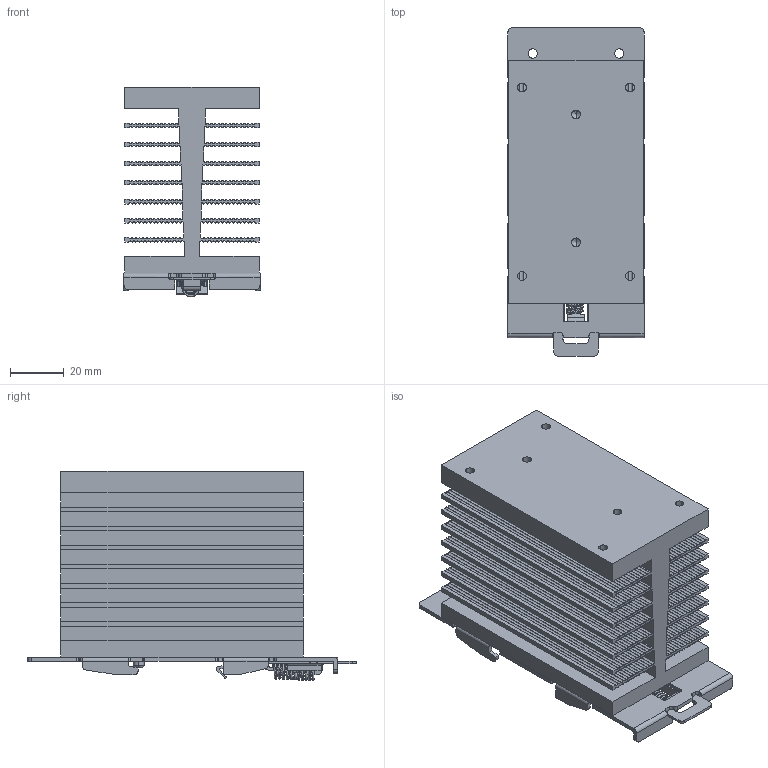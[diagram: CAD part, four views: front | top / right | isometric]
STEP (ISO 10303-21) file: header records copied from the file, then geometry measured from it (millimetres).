
FILE_DESCRIPTION (( 'STEP AP214' ), '1' );
FILE_NAME ('HS_004.STEP', '2024-04-12T07:39:01', ( '' ), ( '' ), 'SwSTEP 2.0', 'SolidWorks 2022', '' );
FILE_SCHEMA (( 'AUTOMOTIVE_DESIGN' ));
Length unit declared in the file: millimetre
Products named in the file (1): HS_004
Bounding box: 50.5 x 121.82 x 77.8 mm (x, y, z)
Volume: 144080.5 mm3; surface area: 104931.7 mm2
Topology: 1 solids, 3 shells, 837 faces, 2443 edges, 1603 vertices
Faces by surface type: cylinder 557, plane 252, bspline 24, cone 4
Entity records: 32947 total; most frequent: CARTESIAN_POINT 9818, DIRECTION 5160, ORIENTED_EDGE 4878, EDGE_CURVE 2439, AXIS2_PLACEMENT_3D 1959, VERTEX_POINT 1603, LINE 1242, VECTOR 1242
